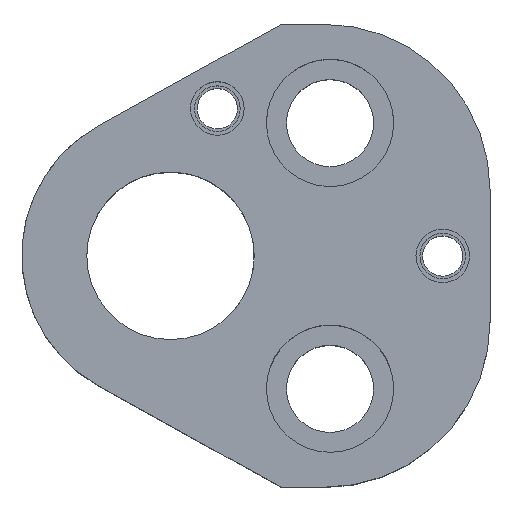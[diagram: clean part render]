
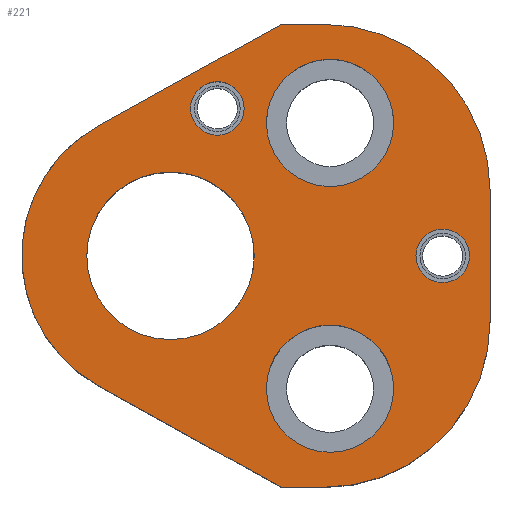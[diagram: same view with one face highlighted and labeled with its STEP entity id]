
A CAD part, top view. The second image highlights one B-rep face of the part: STEP entity #221.
In plain terms, the highlighted planar face has unit normal (0, 0, 1).
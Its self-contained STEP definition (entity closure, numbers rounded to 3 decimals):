
#104=FACE_BOUND('',#319,.T.);
#105=FACE_BOUND('',#320,.T.);
#106=FACE_BOUND('',#321,.T.);
#107=FACE_BOUND('',#322,.T.);
#108=FACE_BOUND('',#323,.T.);
#109=FACE_BOUND('',#324,.T.);
#149=CIRCLE('',#877,24.7);
#151=CIRCLE('',#881,24.7);
#161=CIRCLE('',#898,9.5);
#163=CIRCLE('',#901,9.5);
#165=CIRCLE('',#905,9.5);
#167=CIRCLE('',#908,9.5);
#169=CIRCLE('',#912,22.2);
#170=CIRCLE('',#913,4.);
#171=CIRCLE('',#914,4.);
#172=CIRCLE('',#915,4.);
#173=CIRCLE('',#916,4.);
#174=CIRCLE('',#917,12.5);
#175=CIRCLE('',#918,12.5);
#221=ADVANCED_FACE('',(#104,#105,#106,#107,#108,#109),#255,.T.);
#255=PLANE('',#919);
#319=EDGE_LOOP('',(#424,#425,#426,#427,#428,#429,#430,#431));
#320=EDGE_LOOP('',(#432,#433));
#321=EDGE_LOOP('',(#434,#435));
#322=EDGE_LOOP('',(#436,#437));
#323=EDGE_LOOP('',(#438,#439));
#324=EDGE_LOOP('',(#440,#441));
#424=ORIENTED_EDGE('',*,*,#699,.T.);
#425=ORIENTED_EDGE('',*,*,#657,.T.);
#426=ORIENTED_EDGE('',*,*,#661,.T.);
#427=ORIENTED_EDGE('',*,*,#664,.T.);
#428=ORIENTED_EDGE('',*,*,#667,.T.);
#429=ORIENTED_EDGE('',*,*,#670,.T.);
#430=ORIENTED_EDGE('',*,*,#673,.T.);
#431=ORIENTED_EDGE('',*,*,#700,.T.);
#432=ORIENTED_EDGE('',*,*,#701,.F.);
#433=ORIENTED_EDGE('',*,*,#702,.F.);
#434=ORIENTED_EDGE('',*,*,#703,.F.);
#435=ORIENTED_EDGE('',*,*,#704,.F.);
#436=ORIENTED_EDGE('',*,*,#697,.F.);
#437=ORIENTED_EDGE('',*,*,#693,.F.);
#438=ORIENTED_EDGE('',*,*,#691,.F.);
#439=ORIENTED_EDGE('',*,*,#687,.F.);
#440=ORIENTED_EDGE('',*,*,#705,.T.);
#441=ORIENTED_EDGE('',*,*,#706,.T.);
#583=VERTEX_POINT('',#1235);
#584=VERTEX_POINT('',#1237);
#587=VERTEX_POINT('',#1244);
#589=VERTEX_POINT('',#1250);
#591=VERTEX_POINT('',#1256);
#593=VERTEX_POINT('',#1262);
#595=VERTEX_POINT('',#1268);
#604=VERTEX_POINT('',#1297);
#605=VERTEX_POINT('',#1298);
#608=VERTEX_POINT('',#1310);
#609=VERTEX_POINT('',#1311);
#612=VERTEX_POINT('',#1323);
#613=VERTEX_POINT('',#1326);
#614=VERTEX_POINT('',#1327);
#615=VERTEX_POINT('',#1330);
#616=VERTEX_POINT('',#1331);
#617=VERTEX_POINT('',#1334);
#618=VERTEX_POINT('',#1335);
#657=EDGE_CURVE('',#584,#583,#768,.T.);
#661=EDGE_CURVE('',#583,#587,#149,.T.);
#664=EDGE_CURVE('',#587,#589,#773,.T.);
#667=EDGE_CURVE('',#589,#591,#151,.T.);
#670=EDGE_CURVE('',#591,#593,#777,.T.);
#673=EDGE_CURVE('',#593,#595,#780,.T.);
#687=EDGE_CURVE('',#604,#605,#161,.T.);
#691=EDGE_CURVE('',#605,#604,#163,.T.);
#693=EDGE_CURVE('',#608,#609,#165,.T.);
#697=EDGE_CURVE('',#609,#608,#167,.T.);
#699=EDGE_CURVE('',#612,#584,#790,.T.);
#700=EDGE_CURVE('',#595,#612,#169,.T.);
#701=EDGE_CURVE('',#613,#614,#170,.T.);
#702=EDGE_CURVE('',#614,#613,#171,.T.);
#703=EDGE_CURVE('',#615,#616,#172,.T.);
#704=EDGE_CURVE('',#616,#615,#173,.T.);
#705=EDGE_CURVE('',#617,#618,#174,.T.);
#706=EDGE_CURVE('',#618,#617,#175,.T.);
#768=LINE('',#1236,#822);
#773=LINE('',#1251,#827);
#777=LINE('',#1263,#831);
#780=LINE('',#1269,#834);
#790=LINE('',#1322,#844);
#822=VECTOR('',#979,1.);
#827=VECTOR('',#992,1.);
#831=VECTOR('',#1004,1.);
#834=VECTOR('',#1009,1.);
#844=VECTOR('',#1073,1.);
#877=AXIS2_PLACEMENT_3D('',#1245,#985,#986);
#881=AXIS2_PLACEMENT_3D('',#1257,#997,#998);
#898=AXIS2_PLACEMENT_3D('',#1296,#1041,#1042);
#901=AXIS2_PLACEMENT_3D('',#1305,#1049,#1050);
#905=AXIS2_PLACEMENT_3D('',#1309,#1057,#1058);
#908=AXIS2_PLACEMENT_3D('',#1318,#1065,#1066);
#912=AXIS2_PLACEMENT_3D('',#1324,#1074,#1075);
#913=AXIS2_PLACEMENT_3D('',#1325,#1076,#1077);
#914=AXIS2_PLACEMENT_3D('',#1328,#1078,#1079);
#915=AXIS2_PLACEMENT_3D('',#1329,#1080,#1081);
#916=AXIS2_PLACEMENT_3D('',#1332,#1082,#1083);
#917=AXIS2_PLACEMENT_3D('',#1333,#1084,#1085);
#918=AXIS2_PLACEMENT_3D('',#1336,#1086,#1087);
#919=AXIS2_PLACEMENT_3D('',#1337,#1088,#1089);
#979=DIRECTION('',(1.,0.,0.));
#985=DIRECTION('',(0.,0.,1.));
#986=DIRECTION('',(-0.707,0.707,0.));
#992=DIRECTION('',(0.,1.,0.));
#997=DIRECTION('',(0.,0.,1.));
#998=DIRECTION('',(-0.707,-0.707,0.));
#1004=DIRECTION('',(-1.,0.,0.));
#1009=DIRECTION('',(-0.875,-0.485,0.));
#1041=DIRECTION('',(0.,0.,1.));
#1042=DIRECTION('',(-1.,0.,0.));
#1049=DIRECTION('',(0.,0.,1.));
#1050=DIRECTION('',(1.,0.,0.));
#1057=DIRECTION('',(0.,0.,1.));
#1058=DIRECTION('',(-1.,0.,0.));
#1065=DIRECTION('',(0.,0.,1.));
#1066=DIRECTION('',(1.,0.,0.));
#1073=DIRECTION('',(0.875,-0.485,0.));
#1074=DIRECTION('',(0.,0.,1.));
#1075=DIRECTION('',(1.,0.,0.));
#1076=DIRECTION('',(0.,0.,1.));
#1077=DIRECTION('',(1.,0.,0.));
#1078=DIRECTION('',(0.,0.,1.));
#1079=DIRECTION('',(-1.,0.,0.));
#1080=DIRECTION('',(0.,0.,1.));
#1081=DIRECTION('',(1.,0.,0.));
#1082=DIRECTION('',(0.,0.,1.));
#1083=DIRECTION('',(-1.,0.,0.));
#1084=DIRECTION('',(0.,0.,-1.));
#1085=DIRECTION('',(-1.,0.,0.));
#1086=DIRECTION('',(0.,0.,-1.));
#1087=DIRECTION('',(1.,0.,0.));
#1088=DIRECTION('',(0.,0.,1.));
#1089=DIRECTION('',(-0.875,0.485,0.));
#1235=CARTESIAN_POINT('',(23.,-34.55,32.));
#1236=CARTESIAN_POINT('',(16.539,-34.55,32.));
#1237=CARTESIAN_POINT('',(16.539,-34.55,32.));
#1244=CARTESIAN_POINT('',(47.7,-9.85,32.));
#1245=CARTESIAN_POINT('',(23.,-9.85,32.));
#1250=CARTESIAN_POINT('',(47.7,9.85,32.));
#1251=CARTESIAN_POINT('',(47.7,9.85,32.));
#1256=CARTESIAN_POINT('',(23.,34.55,32.));
#1257=CARTESIAN_POINT('',(23.,9.85,32.));
#1262=CARTESIAN_POINT('',(16.539,34.55,32.));
#1263=CARTESIAN_POINT('',(16.539,34.55,32.));
#1268=CARTESIAN_POINT('',(-10.763,19.417,32.));
#1269=CARTESIAN_POINT('',(16.539,34.55,32.));
#1296=CARTESIAN_POINT('',(23.82,-19.84,32.));
#1297=CARTESIAN_POINT('',(23.82,-29.34,32.));
#1298=CARTESIAN_POINT('',(23.82,-10.34,32.));
#1305=CARTESIAN_POINT('',(23.82,-19.84,32.));
#1309=CARTESIAN_POINT('',(23.82,19.84,32.));
#1310=CARTESIAN_POINT('',(23.82,10.34,32.));
#1311=CARTESIAN_POINT('',(23.82,29.34,32.));
#1318=CARTESIAN_POINT('',(23.82,19.84,32.));
#1322=CARTESIAN_POINT('',(16.539,-34.55,32.));
#1323=CARTESIAN_POINT('',(-10.763,-19.417,32.));
#1324=CARTESIAN_POINT('',(0.,0.,32.));
#1325=CARTESIAN_POINT('',(40.64,0.,32.));
#1326=CARTESIAN_POINT('',(40.64,4.,32.));
#1327=CARTESIAN_POINT('',(40.64,-4.,32.));
#1328=CARTESIAN_POINT('',(40.64,0.,32.));
#1329=CARTESIAN_POINT('',(7.,22.,32.));
#1330=CARTESIAN_POINT('',(7.,26.,32.));
#1331=CARTESIAN_POINT('',(7.,18.,32.));
#1332=CARTESIAN_POINT('',(7.,22.,32.));
#1333=CARTESIAN_POINT('',(0.,0.,32.));
#1334=CARTESIAN_POINT('',(0.,12.5,32.));
#1335=CARTESIAN_POINT('',(0.,-12.5,32.));
#1336=CARTESIAN_POINT('',(0.,0.,32.));
#1337=CARTESIAN_POINT('',(-10.763,-19.417,32.));
